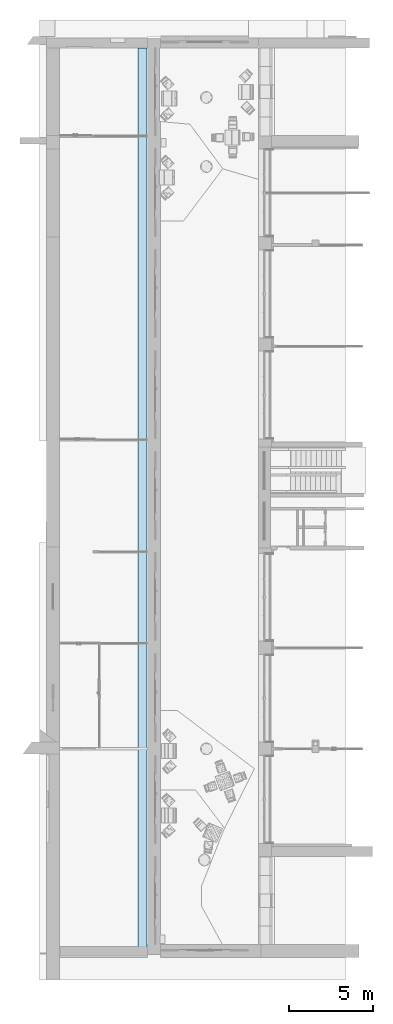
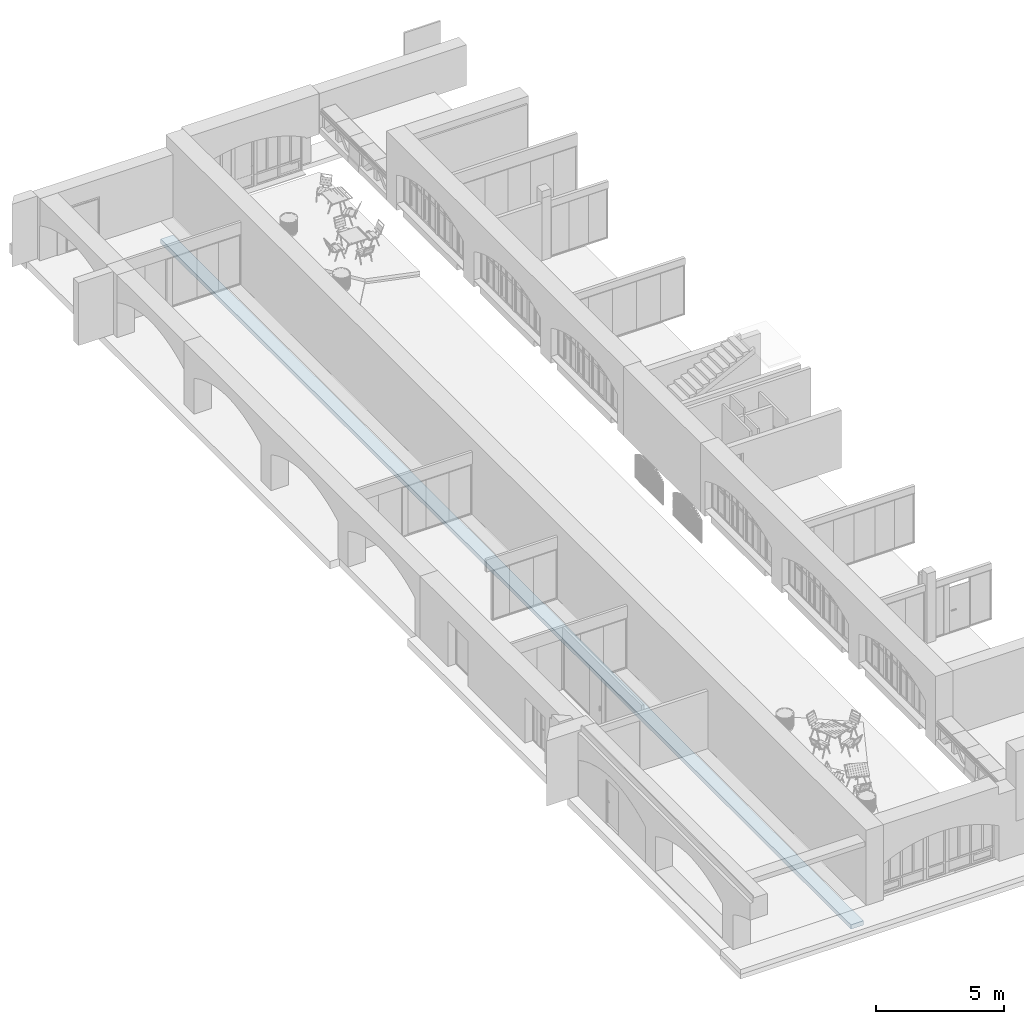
# One storey, part 56 of 88: 1 slab.
"""IFC2X3 building model written with IfcOpenShell, lengths in millimetres."""

from ifc_helpers import new_model, entity, si_unit, converted_unit, derived_unit, direction, frame, frame_2d, origin, place, context, subcontext, project, spatial, rectangle, extrude, material, layer, layer_set, layer_usage, type_object, element, save


model = new_model("IFC2X3")

# Units and contexts
model_context = context("Model", 3, precision=0.01, world=origin(), true_north=direction((6.123031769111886e-17, 1.0)))
body_context = subcontext(model_context, "Body", "Model", "MODEL_VIEW")
ifc_project = project(units=[si_unit("LENGTHUNIT", "METRE", prefix="MILLI"), si_unit("AREAUNIT", "SQUARE_METRE"), si_unit("VOLUMEUNIT", "CUBIC_METRE"), converted_unit("PLANEANGLEUNIT", "DEGREE", entity("IfcPlaneAngleMeasure", 0.017453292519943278), si_unit("PLANEANGLEUNIT", "RADIAN"), dimensions=[0, 0, 0, 0, 0, 0, 0]), si_unit("MASSUNIT", "GRAM", prefix="KILO"), derived_unit("MASSDENSITYUNIT", [(si_unit("MASSUNIT", "GRAM", prefix="KILO"), 1), (si_unit("LENGTHUNIT", "METRE"), -3)]), derived_unit("IONCONCENTRATIONUNIT", [(si_unit("MASSUNIT", "GRAM", prefix="KILO"), 1), (si_unit("LENGTHUNIT", "METRE"), -3)]), derived_unit("MOMENTOFINERTIAUNIT", [(si_unit("LENGTHUNIT", "METRE"), 4)]), si_unit("TIMEUNIT", "SECOND"), si_unit("FREQUENCYUNIT", "HERTZ"), si_unit("THERMODYNAMICTEMPERATUREUNIT", "DEGREE_CELSIUS"), derived_unit("THERMALTRANSMITTANCEUNIT", [(si_unit("MASSUNIT", "GRAM", prefix="KILO"), 1), (si_unit("THERMODYNAMICTEMPERATUREUNIT", "KELVIN"), -1), (si_unit("TIMEUNIT", "SECOND"), -3)]), derived_unit("THERMALCONDUCTANCEUNIT", [(si_unit("MASSUNIT", "GRAM", prefix="KILO"), 1), (si_unit("THERMODYNAMICTEMPERATUREUNIT", "KELVIN"), -1), (si_unit("TIMEUNIT", "SECOND"), -3), (si_unit("LENGTHUNIT", "METRE"), 1)]), derived_unit("VOLUMETRICFLOWRATEUNIT", [(si_unit("LENGTHUNIT", "METRE", prefix="DECI"), 3), (si_unit("TIMEUNIT", "SECOND"), -1)]), derived_unit("MASSFLOWRATEUNIT", [(si_unit("MASSUNIT", "GRAM", prefix="KILO"), 1), (si_unit("TIMEUNIT", "SECOND"), -1)]), derived_unit("ROTATIONALFREQUENCYUNIT", [(si_unit("TIMEUNIT", "SECOND"), -1)]), si_unit("ELECTRICCURRENTUNIT", "AMPERE"), si_unit("ELECTRICVOLTAGEUNIT", "VOLT"), si_unit("POWERUNIT", "WATT"), si_unit("FORCEUNIT", "NEWTON", prefix="KILO"), si_unit("ILLUMINANCEUNIT", "LUX"), si_unit("LUMINOUSFLUXUNIT", "LUMEN"), si_unit("LUMINOUSINTENSITYUNIT", "CANDELA"), si_unit("ENERGYUNIT", "JOULE"), derived_unit("USERDEFINED", [(si_unit("MASSUNIT", "GRAM", prefix="KILO"), -1), (si_unit("LENGTHUNIT", "METRE"), -2), (si_unit("TIMEUNIT", "SECOND"), 3), (si_unit("LUMINOUSFLUXUNIT", "LUMEN"), 1)]), derived_unit("USERDEFINED", [(si_unit("MASSUNIT", "GRAM", prefix="KILO"), 1), (si_unit("TIMEUNIT", "SECOND"), -3), (si_unit("LENGTHUNIT", "METRE"), 3), (si_unit("ELECTRICCURRENTUNIT", "AMPERE"), -2)]), derived_unit("SOUNDPOWERUNIT", [(si_unit("MASSUNIT", "GRAM", prefix="KILO"), 1), (si_unit("TIMEUNIT", "SECOND"), -3), (si_unit("LENGTHUNIT", "METRE"), 2)]), derived_unit("SOUNDPRESSUREUNIT", [(si_unit("MASSUNIT", "GRAM", prefix="KILO"), 1), (si_unit("LENGTHUNIT", "METRE"), -1), (si_unit("TIMEUNIT", "SECOND"), -2)]), derived_unit("LINEARVELOCITYUNIT", [(si_unit("LENGTHUNIT", "METRE"), 1), (si_unit("TIMEUNIT", "SECOND"), -1)]), si_unit("PRESSUREUNIT", "PASCAL"), derived_unit("USERDEFINED", [(si_unit("MASSUNIT", "GRAM", prefix="KILO"), 1), (si_unit("LENGTHUNIT", "METRE"), -2), (si_unit("TIMEUNIT", "SECOND"), -2)]), derived_unit("LINEARFORCEUNIT", [(si_unit("MASSUNIT", "GRAM", prefix="KILO"), 1), (si_unit("TIMEUNIT", "SECOND"), -2)]), derived_unit("PLANARFORCEUNIT", [(si_unit("MASSUNIT", "GRAM", prefix="KILO"), 1), (si_unit("LENGTHUNIT", "METRE"), -1), (si_unit("TIMEUNIT", "SECOND"), -2)]), derived_unit("SPECIFICHEATCAPACITYUNIT", [(si_unit("THERMODYNAMICTEMPERATUREUNIT", "KELVIN"), -1), (si_unit("LENGTHUNIT", "METRE"), 2), (si_unit("TIMEUNIT", "SECOND"), -2)]), derived_unit("HEATFLUXDENSITYUNIT", [(si_unit("MASSUNIT", "GRAM", prefix="KILO"), 1), (si_unit("TIMEUNIT", "SECOND"), -3)]), derived_unit("HEATINGVALUEUNIT", [(si_unit("LENGTHUNIT", "METRE"), 2), (si_unit("TIMEUNIT", "SECOND"), -2)]), derived_unit("VAPORPERMEABILITYUNIT", [(si_unit("LENGTHUNIT", "METRE"), -1), (si_unit("TIMEUNIT", "SECOND"), 1)]), derived_unit("DYNAMICVISCOSITYUNIT", [(si_unit("MASSUNIT", "GRAM", prefix="KILO"), 1), (si_unit("TIMEUNIT", "SECOND"), -1), (si_unit("LENGTHUNIT", "METRE"), -1)]), derived_unit("THERMALEXPANSIONCOEFFICIENTUNIT", [(si_unit("THERMODYNAMICTEMPERATUREUNIT", "KELVIN"), -1)]), derived_unit("MODULUSOFELASTICITYUNIT", [(si_unit("MASSUNIT", "GRAM", prefix="KILO"), 1), (si_unit("LENGTHUNIT", "METRE"), -1), (si_unit("TIMEUNIT", "SECOND"), -2)]), derived_unit("ISOTHERMALMOISTURECAPACITYUNIT", [(si_unit("MASSUNIT", "GRAM", prefix="KILO"), -1), (si_unit("LENGTHUNIT", "METRE"), 3)]), derived_unit("MOISTUREDIFFUSIVITYUNIT", [(si_unit("TIMEUNIT", "SECOND"), -1), (si_unit("LENGTHUNIT", "METRE"), 2)]), derived_unit("MASSPERLENGTHUNIT", [(si_unit("MASSUNIT", "GRAM", prefix="KILO"), 1), (si_unit("LENGTHUNIT", "METRE"), -1)]), derived_unit("THERMALRESISTANCEUNIT", [(si_unit("MASSUNIT", "GRAM", prefix="KILO"), -1), (si_unit("TIMEUNIT", "SECOND"), 3), (si_unit("THERMODYNAMICTEMPERATUREUNIT", "KELVIN"), 1)]), derived_unit("ACCELERATIONUNIT", [(si_unit("LENGTHUNIT", "METRE"), 1), (si_unit("TIMEUNIT", "SECOND"), -2)]), derived_unit("ANGULARVELOCITYUNIT", [(si_unit("TIMEUNIT", "SECOND"), -1), (si_unit("PLANEANGLEUNIT", "RADIAN"), 1)]), derived_unit("LINEARSTIFFNESSUNIT", [(si_unit("MASSUNIT", "GRAM", prefix="KILO"), 1), (si_unit("TIMEUNIT", "SECOND"), -2)]), derived_unit("WARPINGCONSTANTUNIT", [(si_unit("LENGTHUNIT", "METRE"), 6)]), derived_unit("LINEARMOMENTUNIT", [(si_unit("MASSUNIT", "GRAM", prefix="KILO"), 1), (si_unit("LENGTHUNIT", "METRE"), 1), (si_unit("TIMEUNIT", "SECOND"), -2)]), derived_unit("TORQUEUNIT", [(si_unit("MASSUNIT", "GRAM", prefix="KILO"), 1), (si_unit("LENGTHUNIT", "METRE"), 2), (si_unit("TIMEUNIT", "SECOND"), -2)])], contexts=[model_context])

# Site, building, storey
site_placement = place(None, origin())
site = spatial("IfcSite", under=ifc_project, at=site_placement, Name="Default", CompositionType="ELEMENT")
building_placement = place(site_placement, origin())
building = spatial("IfcBuilding", under=site, at=building_placement, Name="Eesti Rahvusraamatukogu hoone renoveerimise projekteerimistööd", CompositionType="ELEMENT")
storey_placement = place(building_placement, origin())
storey = spatial("IfcBuildingStorey", under=building, at=storey_placement, Name="1. korrus", CompositionType="ELEMENT", Elevation=0.0)

# Slab
ifc_material = material(Name="ol. olev materjal")
ifc_layer = layer(ifc_material, 200.0)
ifc_layer_set = layer_set([ifc_layer], Name="Floor:ol. olev - 200mm")
ifc_layer_usage = layer_usage(ifc_layer_set, "AXIS3", "POSITIVE", 0.0)
slab_type = type_object("IfcSlabType", Name="Floor:ol. olev - 200mm", PredefinedType="FLOOR", material=ifc_layer_set)
slab_placement = place(storey_placement, origin())
element("IfcSlab", 1, at=slab_placement, inside=storey, type_object=slab_type, material=ifc_layer_usage, Name="Floor:ol. olev - 200mm", ObjectType="Floor:ol. olev - 200mm", PredefinedType="FLOOR", context=body_context, shape_type="SweptSolid", body=[
    extrude(rectangle(XDim=53794.376279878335, YDim=559.9999999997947, at=frame_2d((0.0, -4.348521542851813e-12), x_axis=(1.0, 0.0))), frame((-43660.0, 27093.18813993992, -840.0), z_axis=(0.0, 0.0, -1.0), x_axis=(0.0, 1.0, 0.0)), (0.0, 0.0, 1.0), 200.0),
])

save(model, "model.ifc")
